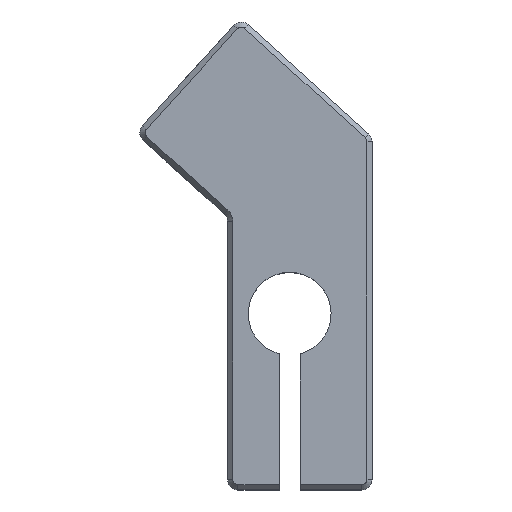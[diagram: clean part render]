
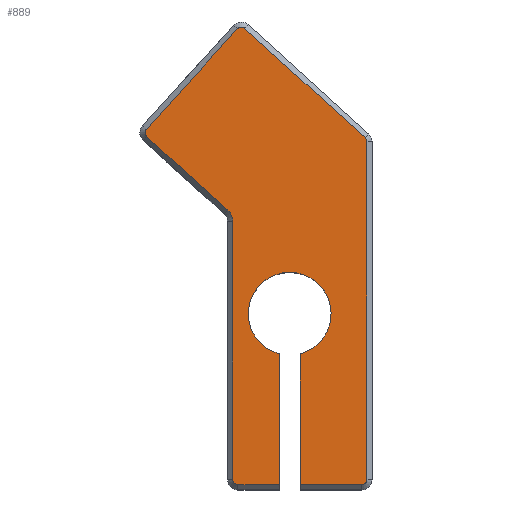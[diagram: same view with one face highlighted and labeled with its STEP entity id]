
A CAD part, top view. The second image highlights one B-rep face of the part: STEP entity #889.
In plain terms, the highlighted planar face has unit normal (0, 0, 1).
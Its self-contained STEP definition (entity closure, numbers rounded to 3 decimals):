
#59=PLANE('',#997);
#110=FACE_OUTER_BOUND('',#169,.T.);
#169=EDGE_LOOP('',(#782,#783,#784,#785,#786,#787,#788,#789,#790,#791,#792,
#793,#794,#795,#796,#797));
#183=LINE('',#1297,#267);
#186=LINE('',#1308,#270);
#190=LINE('',#1320,#274);
#194=LINE('',#1332,#278);
#198=LINE('',#1344,#282);
#202=LINE('',#1354,#286);
#205=LINE('',#1365,#289);
#225=LINE('',#1425,#309);
#255=LINE('',#1553,#339);
#267=VECTOR('',#1028,10.);
#270=VECTOR('',#1039,10.);
#274=VECTOR('',#1051,10.);
#278=VECTOR('',#1063,10.);
#282=VECTOR('',#1075,10.);
#286=VECTOR('',#1087,10.);
#289=VECTOR('',#1098,10.);
#309=VECTOR('',#1164,10.);
#339=VECTOR('',#1256,10.);
#346=CIRCLE('',#922,0.5);
#348=CIRCLE('',#926,0.5);
#350=CIRCLE('',#930,0.5);
#352=CIRCLE('',#934,0.5);
#354=CIRCLE('',#938,1.5);
#356=CIRCLE('',#942,0.5);
#377=CIRCLE('',#998,4.);
#386=VERTEX_POINT('',#1290);
#389=VERTEX_POINT('',#1295);
#391=VERTEX_POINT('',#1301);
#393=VERTEX_POINT('',#1306);
#395=VERTEX_POINT('',#1313);
#397=VERTEX_POINT('',#1318);
#399=VERTEX_POINT('',#1325);
#401=VERTEX_POINT('',#1330);
#403=VERTEX_POINT('',#1337);
#405=VERTEX_POINT('',#1342);
#406=VERTEX_POINT('',#1348);
#407=VERTEX_POINT('',#1352);
#409=VERTEX_POINT('',#1358);
#411=VERTEX_POINT('',#1363);
#428=VERTEX_POINT('',#1424);
#451=VERTEX_POINT('',#1552);
#465=EDGE_CURVE('',#389,#386,#183,.T.);
#468=EDGE_CURVE('',#391,#389,#346,.T.);
#470=EDGE_CURVE('',#393,#391,#186,.T.);
#474=EDGE_CURVE('',#395,#393,#348,.T.);
#476=EDGE_CURVE('',#397,#395,#190,.T.);
#480=EDGE_CURVE('',#399,#397,#350,.T.);
#482=EDGE_CURVE('',#401,#399,#194,.T.);
#486=EDGE_CURVE('',#403,#401,#352,.T.);
#488=EDGE_CURVE('',#405,#403,#198,.T.);
#492=EDGE_CURVE('',#406,#405,#354,.T.);
#494=EDGE_CURVE('',#407,#406,#202,.T.);
#497=EDGE_CURVE('',#409,#407,#356,.T.);
#499=EDGE_CURVE('',#411,#409,#205,.T.);
#529=EDGE_CURVE('',#428,#386,#225,.T.);
#572=EDGE_CURVE('',#411,#451,#255,.T.);
#573=EDGE_CURVE('',#451,#428,#377,.T.);
#782=ORIENTED_EDGE('',*,*,#499,.F.);
#783=ORIENTED_EDGE('',*,*,#572,.T.);
#784=ORIENTED_EDGE('',*,*,#573,.T.);
#785=ORIENTED_EDGE('',*,*,#529,.T.);
#786=ORIENTED_EDGE('',*,*,#465,.F.);
#787=ORIENTED_EDGE('',*,*,#468,.F.);
#788=ORIENTED_EDGE('',*,*,#470,.F.);
#789=ORIENTED_EDGE('',*,*,#474,.F.);
#790=ORIENTED_EDGE('',*,*,#476,.F.);
#791=ORIENTED_EDGE('',*,*,#480,.F.);
#792=ORIENTED_EDGE('',*,*,#482,.F.);
#793=ORIENTED_EDGE('',*,*,#486,.F.);
#794=ORIENTED_EDGE('',*,*,#488,.F.);
#795=ORIENTED_EDGE('',*,*,#492,.F.);
#796=ORIENTED_EDGE('',*,*,#494,.F.);
#797=ORIENTED_EDGE('',*,*,#497,.F.);
#889=ADVANCED_FACE('',(#110),#59,.T.);
#922=AXIS2_PLACEMENT_3D('',#1303,#1034,#1035);
#926=AXIS2_PLACEMENT_3D('',#1315,#1046,#1047);
#930=AXIS2_PLACEMENT_3D('',#1327,#1058,#1059);
#934=AXIS2_PLACEMENT_3D('',#1339,#1070,#1071);
#938=AXIS2_PLACEMENT_3D('',#1350,#1082,#1083);
#942=AXIS2_PLACEMENT_3D('',#1360,#1093,#1094);
#997=AXIS2_PLACEMENT_3D('',#1551,#1254,#1255);
#998=AXIS2_PLACEMENT_3D('',#1554,#1257,#1258);
#1028=DIRECTION('',(-1.,0.,0.));
#1034=DIRECTION('center_axis',(0.,0.,-1.));
#1035=DIRECTION('ref_axis',(0.707,-0.707,0.));
#1039=DIRECTION('',(0.,-1.,0.));
#1046=DIRECTION('center_axis',(0.,0.,-1.));
#1047=DIRECTION('ref_axis',(0.914,0.405,0.));
#1051=DIRECTION('',(0.741,-0.672,0.));
#1058=DIRECTION('center_axis',(0.,0.,-1.));
#1059=DIRECTION('ref_axis',(-0.049,0.999,0.));
#1063=DIRECTION('',(0.672,0.741,0.));
#1070=DIRECTION('center_axis',(0.,0.,-1.));
#1071=DIRECTION('ref_axis',(-0.999,-0.049,0.));
#1075=DIRECTION('',(-0.741,0.672,0.));
#1082=DIRECTION('center_axis',(0.,0.,1.));
#1083=DIRECTION('ref_axis',(0.914,0.405,0.));
#1087=DIRECTION('',(0.,1.,0.));
#1093=DIRECTION('center_axis',(0.,0.,-1.));
#1094=DIRECTION('ref_axis',(-0.707,-0.707,0.));
#1098=DIRECTION('',(-1.,0.,0.));
#1164=DIRECTION('',(0.,-1.,0.));
#1254=DIRECTION('center_axis',(0.,0.,1.));
#1255=DIRECTION('ref_axis',(1.,0.,0.));
#1256=DIRECTION('',(0.,1.,0.));
#1257=DIRECTION('center_axis',(0.,0.,-1.));
#1258=DIRECTION('ref_axis',(-1.,0.,0.));
#1290=CARTESIAN_POINT('',(1.,-16.508,11.));
#1295=CARTESIAN_POINT('',(6.967,-16.508,11.));
#1297=CARTESIAN_POINT('',(-7.033,-16.508,11.));
#1301=CARTESIAN_POINT('',(7.467,-16.008,11.));
#1303=CARTESIAN_POINT('Origin',(6.967,-16.008,11.));
#1306=CARTESIAN_POINT('',(7.467,16.631,11.));
#1308=CARTESIAN_POINT('',(7.467,-1.758,11.));
#1313=CARTESIAN_POINT('',(7.302,17.002,11.));
#1315=CARTESIAN_POINT('Origin',(6.967,16.631,11.));
#1318=CARTESIAN_POINT('',(-4.344,27.562,11.));
#1320=CARTESIAN_POINT('',(5.909,18.265,11.));
#1325=CARTESIAN_POINT('',(-5.05,27.527,11.));
#1327=CARTESIAN_POINT('Origin',(-4.68,27.191,11.));
#1330=CARTESIAN_POINT('',(-13.847,17.825,11.));
#1332=CARTESIAN_POINT('',(-15.491,16.013,11.));
#1337=CARTESIAN_POINT('',(-13.813,17.119,11.));
#1339=CARTESIAN_POINT('Origin',(-13.477,17.489,11.));
#1342=CARTESIAN_POINT('',(-5.992,10.028,11.));
#1344=CARTESIAN_POINT('',(-4.2,8.402,11.));
#1348=CARTESIAN_POINT('',(-5.5,8.916,11.));
#1350=CARTESIAN_POINT('Origin',(-7.,8.916,11.));
#1352=CARTESIAN_POINT('',(-5.5,-16.008,11.));
#1354=CARTESIAN_POINT('',(-5.5,9.282,11.));
#1358=CARTESIAN_POINT('',(-5.,-16.508,11.));
#1360=CARTESIAN_POINT('Origin',(-5.,-16.008,11.));
#1363=CARTESIAN_POINT('',(-1.,-16.508,11.));
#1365=CARTESIAN_POINT('',(-7.033,-16.508,11.));
#1424=CARTESIAN_POINT('',(1.,-3.873,11.));
#1425=CARTESIAN_POINT('',(1.,-2.396,11.));
#1551=CARTESIAN_POINT('Origin',(0.,0.014,11.));
#1552=CARTESIAN_POINT('',(-1.,-3.873,11.));
#1553=CARTESIAN_POINT('',(-1.,-17.839,11.));
#1554=CARTESIAN_POINT('Origin',(0.,0.,11.));
